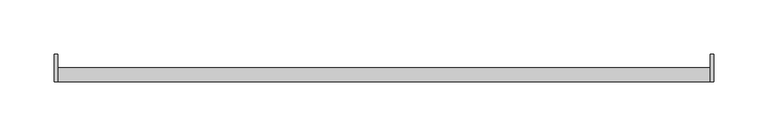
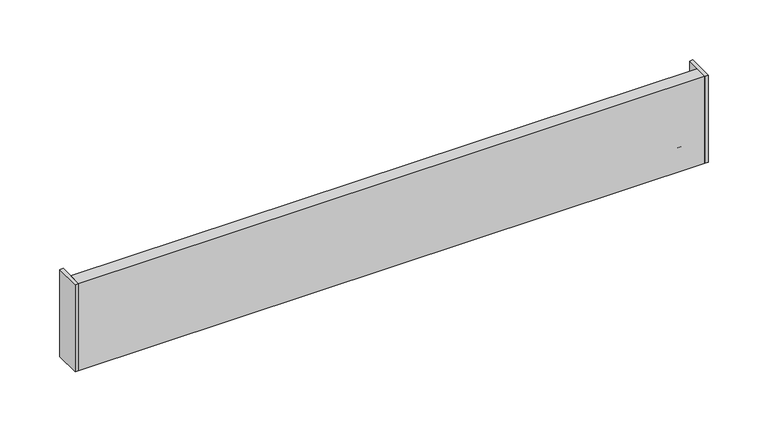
"""IFC4 building model written with IfcOpenShell, lengths in millimetres: furniture geometry."""

from ifc_helpers import new_model, si_unit, frame, origin, place, context, project, spatial, polyline, outline, extrude, source, transform, mapped, element, save


def furniture_8254671f(model_context):
    return source(origin(), model_context, "Body", "SweptSolid", [
        extrude(outline(polyline([(-301.625, 12.6999996), (-301.625, -12.7000004), (-304.8, -12.7000004), (-304.8, 12.6999996), (-301.625, 12.6999996)])), frame((0.0, 0.0, 871.11332), z_axis=(0.0, 0.0, 1.0), x_axis=(1.0, 0.0, 0.0)), (0.0, 0.0, 1.0), 88.9),
        extrude(outline(polyline([(304.8, 12.6999996), (304.8, -12.7000004), (301.625, -12.7000004), (301.625, 12.6999996), (304.8, 12.6999996)])), frame((0.0, 0.0, 871.11332), z_axis=(0.0, 0.0, 1.0), x_axis=(1.0, 0.0, 0.0)), (0.0, 0.0, 1.0), 88.9),
        extrude(outline(polyline([(301.625, 0.0), (301.625, -12.7000004), (-301.625, -12.7000004), (-301.625, 0.0), (301.625, 0.0)])), frame((0.0, 0.0, 871.11332), z_axis=(0.0, 0.0, 1.0), x_axis=(1.0, 0.0, 0.0)), (0.0, 0.0, 1.0), 88.9),
        extrude(outline(polyline([(-12.7000004, 947.3133166), (-12.7000004, 960.01332), (0.0, 960.01332), (0.0, 871.11332), (-12.7000004, 871.11332), (-12.7000004, 896.5133166), (-3.1750002, 896.5133166), (-3.1750002, 909.2133166), (-12.7000004, 909.2133166), (-12.7000004, 934.6133166), (-3.1750002, 934.6133166), (-3.1750002, 947.3133166), (-12.7000004, 947.3133166)])), frame((-301.625, 0.0, 0.0), z_axis=(1.0, 0.0, 0.0), x_axis=(0.0, 1.0, 0.0)), (0.0, 0.0, 1.0), 603.25),
        extrude(outline(polyline([(-12.7000004, 960.01332), (0.0, 960.01332), (0.0, 947.3133166), (12.6999996, 947.3133166), (12.6999996, 883.813317), (0.0, 883.813317), (0.0, 871.11332), (-12.7000004, 871.11332), (-12.7000004, 960.01332)])), frame((-304.8, 0.0, 0.0), z_axis=(1.0, 0.0, 0.0), x_axis=(0.0, 1.0, 0.0)), (0.0, 0.0, 1.0), 3.175),
        extrude(outline(polyline([(-12.7000004, 960.01332), (0.0, 960.01332), (0.0, 947.3133166), (12.6999996, 947.3133166), (12.6999996, 883.813317), (0.0, 883.813317), (0.0, 871.11332), (-12.7000004, 871.11332), (-12.7000004, 960.01332)])), frame((301.625, 0.0, 0.0), z_axis=(1.0, 0.0, 0.0), x_axis=(0.0, 1.0, 0.0)), (0.0, 0.0, 1.0), 3.175),
    ])


if __name__ == "__main__":
    model = new_model("IFC4")
    model_context = context("Model", 3, world=origin())
    ifc_project = project(units=[si_unit("LENGTHUNIT", "METRE", prefix="MILLI")], contexts=[model_context])
    site = spatial("IfcSite", under=ifc_project)
    building = spatial("IfcBuilding", under=site)
    placement = place(None, origin())
    furniture_shape = furniture_8254671f(model_context)
    element("IfcFurniture", 1, ObjectType="HermanMiller_ActionOffice_A3610_ToolBar : 4\"H x 24\"W", at=placement, inside=building, context=model_context, shape_type="MappedRepresentation", body=[
        mapped(furniture_shape, transform((0.0, 0.0, 0.0), x_axis=(1.0, 0.0, 0.0), y_axis=(0.0, 1.0, 0.0), z_axis=(0.0, 0.0, 1.0))),
    ])
    save(model, "model.ifc")
